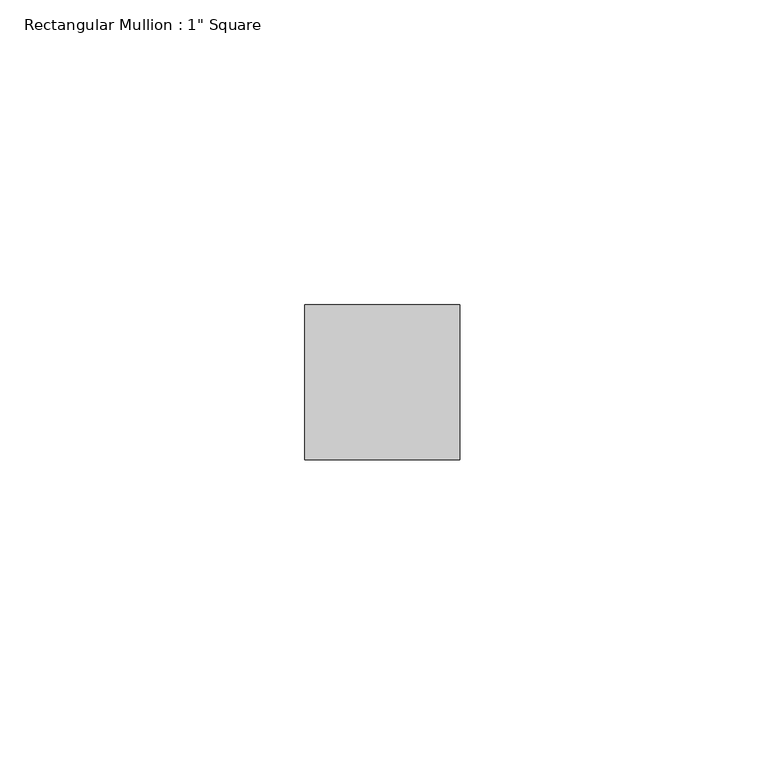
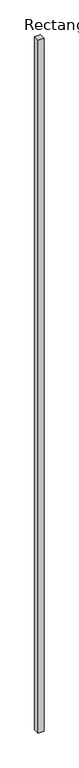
"""IFC4 building model written with IfcOpenShell, lengths in millimetres: member geometry."""

import ifcopenshell
import ifcopenshell.guid

model = None  # the IFC model being written
_history = None  # IfcOwnerHistory: only IFC2X3 demands one
_inside = {}  # id of a spatial element -> (the spatial element, [elements in it])
_under = {}  # id of a project, library or spatial element -> (it, [spatial elements below it])
_declared = {}  # id of a project -> (the project, [libraries it declares])
_typed = {}  # id of a type object -> (the type object, [elements of that type])
_made_of = {}  # id of a material, layer set ... -> (it, [elements and type objects made of it])


def new_model(schema):
    """Start an empty IFC model of exactly this schema.

    Asked for "IFC4X3", IfcOpenShell would pick the latest addendum, in which some entities
    have other attributes; the version numbers below select the first issue.
    IFC2X3 requires an IfcOwnerHistory on every rooted entity: one is made here for all.
    """
    global model, _history
    if schema == "IFC4X3":
        model = ifcopenshell.file(schema_version=(4, 3, 0, 0))
    else:
        model = ifcopenshell.file(schema=schema)
    _inside.clear()
    _under.clear()
    _declared.clear()
    _typed.clear()
    _made_of.clear()
    _history = None
    if model.schema == "IFC2X3":
        org = make("IfcOrganization", Name="unknown")
        user = make(
            "IfcPersonAndOrganization",
            ThePerson=make("IfcPerson", FamilyName="unknown"),
            TheOrganization=org,
        )
        app = make(
            "IfcApplication",
            ApplicationDeveloper=org,
            Version="unknown",
            ApplicationFullName="unknown",
            ApplicationIdentifier="unknown",
        )
        _history = make(
            "IfcOwnerHistory",
            OwningUser=user,
            OwningApplication=app,
            ChangeAction="ADDED",
            CreationDate=0,
        )
    return model


def make(cls, **values):
    """One entity of the class cls with the attributes given. An attribute that is None is left unset."""
    return model.create_entity(
        cls, **{name: value for name, value in values.items() if value is not None}
    )


def rooted(cls, **values):
    """An entity with a GlobalId (a new one), such as an element, a storey or a relation."""
    return make(cls, GlobalId=ifcopenshell.guid.new(), OwnerHistory=_history, **values)


def si_unit(unit_type, name, prefix=None):
    """IfcSIUnit, for example si_unit("LENGTHUNIT", "METRE", prefix="MILLI")."""
    return make("IfcSIUnit", UnitType=unit_type, Prefix=prefix, Name=name)


def assignment(units):
    """IfcUnitAssignment: the units of a project."""
    return None if units is None else make("IfcUnitAssignment", Units=units)


def point(xyz):
    """IfcCartesianPoint."""
    return None if xyz is None else make("IfcCartesianPoint", Coordinates=xyz)


def direction(xyz):
    """IfcDirection."""
    return None if xyz is None else make("IfcDirection", DirectionRatios=xyz)


def frame(location, z_axis=None, x_axis=None):
    """IfcAxis2Placement3D, a coordinate frame: its origin and axes. An axis left out is left unset."""
    return make(
        "IfcAxis2Placement3D",
        Location=point(location),
        Axis=direction(z_axis),
        RefDirection=direction(x_axis),
    )


def origin():
    """The frame at (0, 0, 0) with its axes left unset."""
    return frame((0.0, 0.0, 0.0))


def place(relative_to, where):
    """IfcLocalPlacement: puts the frame where relative to a parent placement (None: the world)."""
    return make(
        "IfcLocalPlacement", PlacementRelTo=relative_to, RelativePlacement=where
    )


def context(
    kind, dimensions, precision=None, world=None, true_north=None, identifier=None
):
    """IfcGeometricRepresentationContext, for example the 3D "Model" context."""
    return make(
        "IfcGeometricRepresentationContext",
        ContextIdentifier=identifier,
        ContextType=kind,
        CoordinateSpaceDimension=dimensions,
        Precision=precision,
        WorldCoordinateSystem=world,
        TrueNorth=true_north,
    )


def project(units=None, contexts=None):
    """IfcProject with its units and contexts."""
    return rooted(
        "IfcProject",
        Name="project",
        RepresentationContexts=contexts,
        UnitsInContext=assignment(units),
    )


def spatial(cls, under=None, at=None, **own):
    """A site, building, storey or space (cls), placed at a placement, below another one or the project."""
    s = rooted(cls, ObjectPlacement=at, **own)
    if under is not None:
        _under.setdefault(under.id(), (under, []))[1].append(s)
    return s


def polyline(points):
    """IfcPolyline through the points."""
    return make("IfcPolyline", Points=[point(p) for p in points])


def outline(outer, holes=None, kind="AREA"):
    """IfcArbitraryClosedProfileDef: a profile drawn as a closed curve; with holes, ...WithVoids."""
    if holes is None:
        return make("IfcArbitraryClosedProfileDef", ProfileType=kind, OuterCurve=outer)
    return make(
        "IfcArbitraryProfileDefWithVoids",
        ProfileType=kind,
        OuterCurve=outer,
        InnerCurves=holes,
    )


def extrude(swept, where, along, depth):
    """IfcExtrudedAreaSolid: the profile swept, set in the frame where, extruded along a direction by depth."""
    return make(
        "IfcExtrudedAreaSolid",
        SweptArea=swept,
        Position=where,
        ExtrudedDirection=direction(along),
        Depth=depth,
    )


def shape(context_of_items, identifier, shape_type, items):
    """IfcShapeRepresentation: the items that make up one representation, for example the "Body"."""
    return make(
        "IfcShapeRepresentation",
        ContextOfItems=context_of_items,
        RepresentationIdentifier=identifier,
        RepresentationType=shape_type,
        Items=items,
    )


def source(mapping_origin, context_of_items, identifier, shape_type, items):
    """IfcRepresentationMap: a shape defined once, which mapped items show again and again."""
    return make(
        "IfcRepresentationMap",
        MappingOrigin=mapping_origin,
        MappedRepresentation=shape(context_of_items, identifier, shape_type, items),
    )


def transform(
    local_origin,
    x_axis=None,
    y_axis=None,
    z_axis=None,
    scale=None,
    scale2=None,
    scale3=None,
    uniform=True,
):
    """IfcCartesianTransformationOperator3D, or its non-uniform kind. x_axis, y_axis, z_axis: its Axis1, 2, 3."""
    if uniform:
        return make(
            "IfcCartesianTransformationOperator3D",
            Axis1=direction(x_axis),
            Axis2=direction(y_axis),
            LocalOrigin=point(local_origin),
            Scale=scale,
            Axis3=direction(z_axis),
        )
    return make(
        "IfcCartesianTransformationOperator3DnonUniform",
        Axis1=direction(x_axis),
        Axis2=direction(y_axis),
        LocalOrigin=point(local_origin),
        Scale=scale,
        Axis3=direction(z_axis),
        Scale2=scale2,
        Scale3=scale3,
    )


def mapped(mapping_source, mapping_target):
    """IfcMappedItem: shows the shape of a source again, moved by a transform."""
    return make(
        "IfcMappedItem", MappingSource=mapping_source, MappingTarget=mapping_target
    )


def made_of(thing, what):
    """Note that an element or type object is made of a material, layer set ...; save() writes the relation."""
    if what is not None:
        _made_of.setdefault(what.id(), (what, []))[1].append(thing)
    return thing


def element(
    cls,
    number,
    at=None,
    inside=None,
    cuts=None,
    type_object=None,
    material=None,
    context=None,
    identifier="Body",
    shape_type=None,
    held_by="IfcProductDefinitionShape",
    body=None,
    shapes=None,
    **own,
):
    """One element of the class cls, such as IfcWall. Its Tag is "e" and its number.

    at: its placement. inside: the storey or other place that contains it. cuts: it is an
    opening in that element (IfcRelVoidsElement). A single representation is given by context,
    identifier, shape_type and body (its items); several are given by shapes. held_by: the class
    of the entity that holds the representations. save() writes the other relations.
    """
    e = rooted(cls, Tag="e%d" % number, ObjectPlacement=at, **own)
    if body is not None:
        shapes = [shape(context, identifier, shape_type, body)]
    if shapes is not None:
        e.Representation = make(held_by, Representations=shapes)
    if inside is not None:
        _inside.setdefault(inside.id(), (inside, []))[1].append(e)
    if cuts is not None:
        rooted(
            "IfcRelVoidsElement", RelatingBuildingElement=cuts, RelatedOpeningElement=e
        )
    if type_object is not None:
        _typed.setdefault(type_object.id(), (type_object, []))[1].append(e)
    return made_of(e, material)


def aggregate(whole, parts):
    """IfcRelAggregates: a whole, such as a stair, and the parts it consists of."""
    return rooted("IfcRelAggregates", RelatingObject=whole, RelatedObjects=parts)


def save(model, path):
    """Write the relations noted so far, then the file.

    IfcRelAggregates (storeys below a building ...), IfcRelContainedInSpatialStructure (elements
    in a storey), IfcRelDefinesByType, IfcRelAssociatesMaterial and IfcRelDeclares: one each for
    every whole, place, type object, material and project.
    """
    for whole, parts in _under.values():
        aggregate(whole, parts)
    for where, things in _inside.values():
        rooted(
            "IfcRelContainedInSpatialStructure",
            RelatedElements=things,
            RelatingStructure=where,
        )
    for kind, things in _typed.values():
        rooted("IfcRelDefinesByType", RelatedObjects=things, RelatingType=kind)
    for what, things in _made_of.values():
        rooted("IfcRelAssociatesMaterial", RelatedObjects=things, RelatingMaterial=what)
    for by, libraries in _declared.values():
        rooted("IfcRelDeclares", RelatingContext=by, RelatedDefinitions=libraries)
    model.write(path)


def member_985bfe06(model_context):
    return source(origin(), model_context, "Body", "SweptSolid", [
        extrude(outline(polyline([(12.7, 12.7), (12.7, -12.7), (-12.7, -12.7), (-12.7, 12.7), (12.7, 12.7)])), frame((0.0, 0.0, -3060.7), z_axis=(0.0, 0.0, 1.0), x_axis=(1.0, 0.0, 0.0)), (0.0, 0.0, 1.0), 3060.7),
    ])


if __name__ == "__main__":
    model = new_model("IFC4")
    model_context = context("Model", 3, world=origin())
    ifc_project = project(units=[si_unit("LENGTHUNIT", "METRE", prefix="MILLI")], contexts=[model_context])
    site = spatial("IfcSite", under=ifc_project)
    building = spatial("IfcBuilding", under=site)
    placement = place(None, origin())
    member_shape = member_985bfe06(model_context)
    element("IfcMember", 1, ObjectType="Rectangular Mullion : 1\" Square", at=placement, inside=building, context=model_context, shape_type="MappedRepresentation", body=[
        mapped(member_shape, transform((0.0, 0.0, 0.0), x_axis=(1.0, 0.0, 0.0), y_axis=(0.0, 1.0, 0.0), z_axis=(0.0, 0.0, 1.0))),
    ])
    save(model, "model.ifc")
